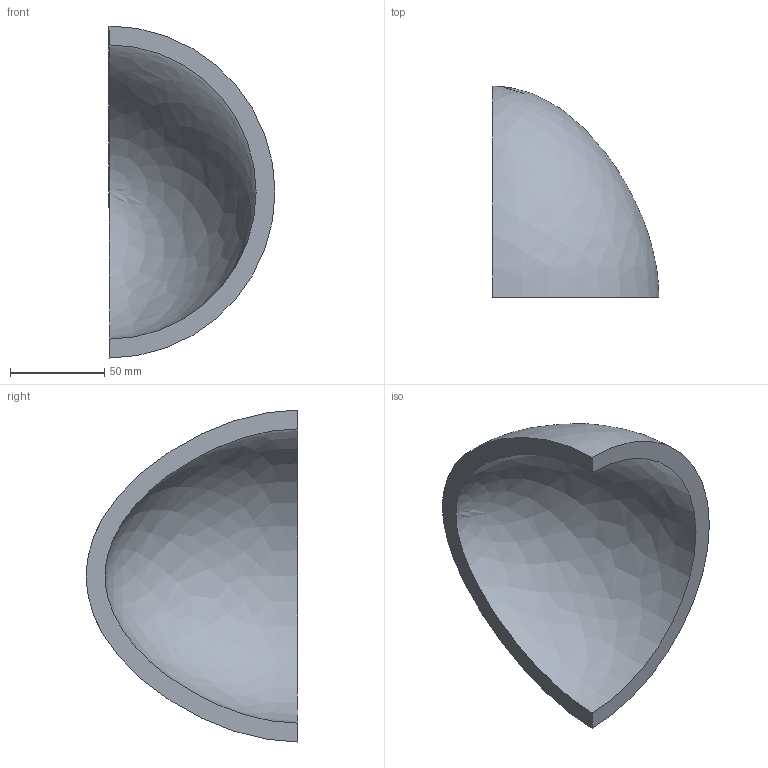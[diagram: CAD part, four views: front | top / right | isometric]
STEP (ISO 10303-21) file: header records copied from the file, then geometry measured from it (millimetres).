
FILE_DESCRIPTION(('CATIA V5 STEP Exchange'),'2;1');
FILE_NAME('C:\_Andres\UNIVERSIDAD\IQS\ASIGNATURAS\DAO\EXF\EXF-16172c\2inicio\Esteba_Torres_Ej10_v12.stp','2017-03-05T22:31:10+00:00',('none'),('none'),'CATIA Version 5-6 Release 2014 SP1 HF18','CATIA V5 STEP AP203','none');
FILE_SCHEMA(('CONFIG_CONTROL_DESIGN'));
Length unit declared in the file: millimetre
Products named in the file (1): Esteba_Torres_Ej10_v12
Bounding box: 88 x 112 x 176 mm (x, y, z)
Volume: 247962.3 mm3; surface area: 55247.2 mm2
Topology: 1 solids, 1 shells, 4 faces, 10 edges, 6 vertices
Faces by surface type: revolution 2, plane 2
Entity records: 233 total; most frequent: CARTESIAN_POINT 111, ORIENTED_EDGE 16, DIRECTION 10, EDGE_CURVE 8, B_SPLINE_CURVE_WITH_KNOTS 6, VERTEX_POINT 6, AXIS2_PLACEMENT_3D 5, ADVANCED_FACE 4
